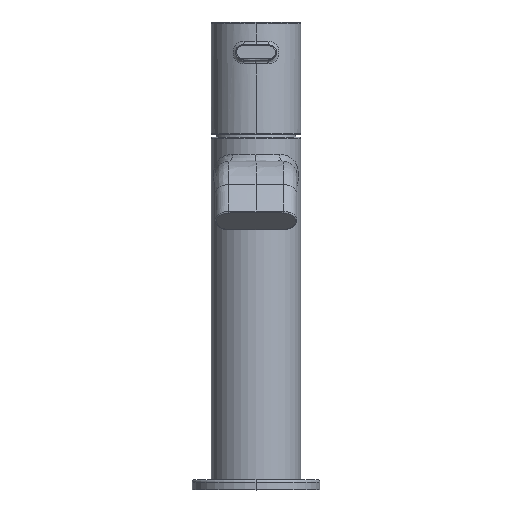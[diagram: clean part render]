
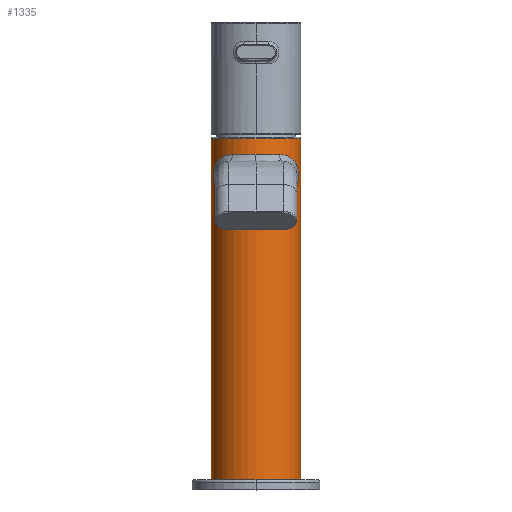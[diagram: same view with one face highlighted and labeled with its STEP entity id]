
A CAD part, top view. The second image highlights one B-rep face of the part: STEP entity #1335.
In plain terms, the highlighted cylindrical face has radius 17.5 mm (diameter 35 mm), a partial arc.
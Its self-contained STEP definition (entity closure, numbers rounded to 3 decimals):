
#208=DIRECTION('',(0.,1.,0.));
#209=VECTOR('',#208,133.5);
#210=CARTESIAN_POINT('',(17.5,4.,0.));
#211=LINE('',#210,#209);
#212=CARTESIAN_POINT('',(0.,137.5,0.));
#213=DIRECTION('',(0.,1.,0.));
#214=DIRECTION('',(-1.,0.,0.));
#215=AXIS2_PLACEMENT_3D('',#212,#213,#214);
#217=CARTESIAN_POINT('',(0.,4.,0.));
#218=DIRECTION('',(0.,-1.,0.));
#219=DIRECTION('',(1.,0.,0.));
#220=AXIS2_PLACEMENT_3D('',#217,#218,#219);
#222=DIRECTION('',(0.,1.,0.));
#223=VECTOR('',#222,133.5);
#224=CARTESIAN_POINT('',(-17.5,4.,0.));
#225=LINE('',#224,#223);
#1216=CARTESIAN_POINT('',(17.5,4.,0.));
#1217=CARTESIAN_POINT('',(-17.5,4.,0.));
#1218=VERTEX_POINT('',#1216);
#1219=VERTEX_POINT('',#1217);
#1224=CARTESIAN_POINT('',(17.5,137.5,0.));
#1225=CARTESIAN_POINT('',(-17.5,137.5,0.));
#1226=VERTEX_POINT('',#1224);
#1227=VERTEX_POINT('',#1225);
#1322=CARTESIAN_POINT('',(0.,4.,0.));
#1323=DIRECTION('',(0.,1.,0.));
#1324=DIRECTION('',(0.,0.,1.));
#1325=AXIS2_PLACEMENT_3D('',#1322,#1323,#1324);
#1326=CYLINDRICAL_SURFACE('',#1325,17.5);
#1328=ORIENTED_EDGE('',*,*,#1327,.T.);
#1329=ORIENTED_EDGE('',*,*,#1310,.F.);
#1331=ORIENTED_EDGE('',*,*,#1330,.T.);
#1332=ORIENTED_EDGE('',*,*,#1306,.T.);
#1333=EDGE_LOOP('',(#1328,#1329,#1331,#1332));
#1334=FACE_OUTER_BOUND('',#1333,.F.);
#1335=ADVANCED_FACE('',(#1334),#1326,.T.);
#216=CIRCLE('',#215,17.5);
#221=CIRCLE('',#220,17.5);
#1306=EDGE_CURVE('',#1219,#1227,#225,.T.);
#1310=EDGE_CURVE('',#1218,#1226,#211,.T.);
#1327=EDGE_CURVE('',#1227,#1226,#216,.T.);
#1330=EDGE_CURVE('',#1218,#1219,#221,.T.);
